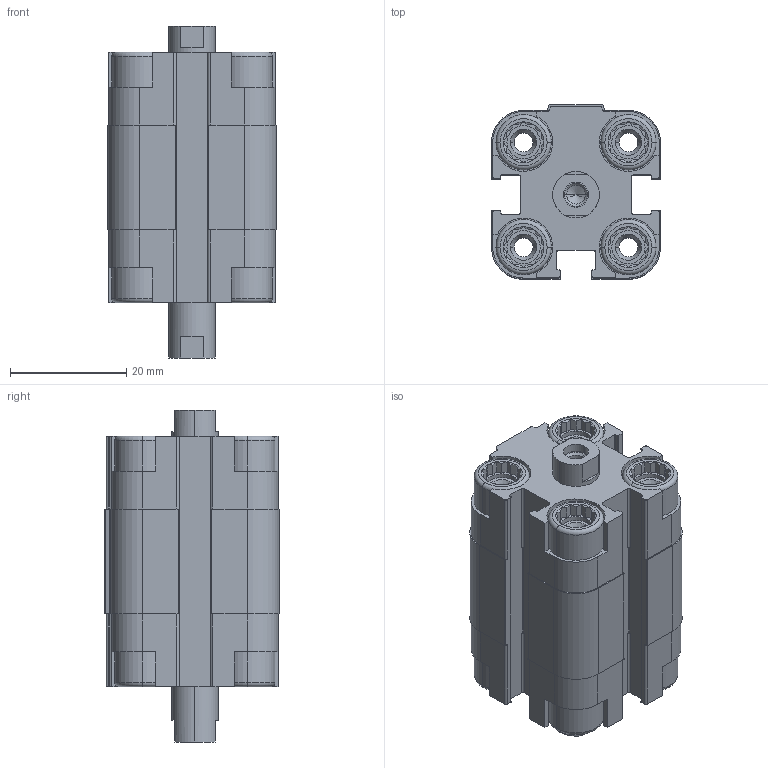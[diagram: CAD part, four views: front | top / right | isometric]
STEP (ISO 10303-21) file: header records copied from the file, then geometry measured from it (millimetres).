
FILE_DESCRIPTION (( 'STEP AP203' ), '1' );
FILE_NAME ('CDVU16-5F-P.STEP', '2020-07-24T18:03:49', ( '' ), ( '' ), 'SwSTEP 2.0', 'SolidWorks 2019', '' );
FILE_SCHEMA (( 'CONFIG_CONTROL_DESIGN' ));
Length unit declared in the file: millimetre
Products named in the file (1): CDVU16-5F-P
Bounding box: 29 x 30 x 57 mm (x, y, z)
Volume: 27240.9 mm3; surface area: 15476.7 mm2
Topology: 2 solids, 2 shells, 566 faces, 1508 edges, 980 vertices
Faces by surface type: plane 338, cylinder 164, cone 48, torus 16
Entity records: 17779 total; most frequent: CARTESIAN_POINT 3623, ORIENTED_EDGE 3000, DIRECTION 2850, EDGE_CURVE 1500, VERTEX_POINT 980, AXIS2_PLACEMENT_3D 975, VECTOR 900, LINE 900
